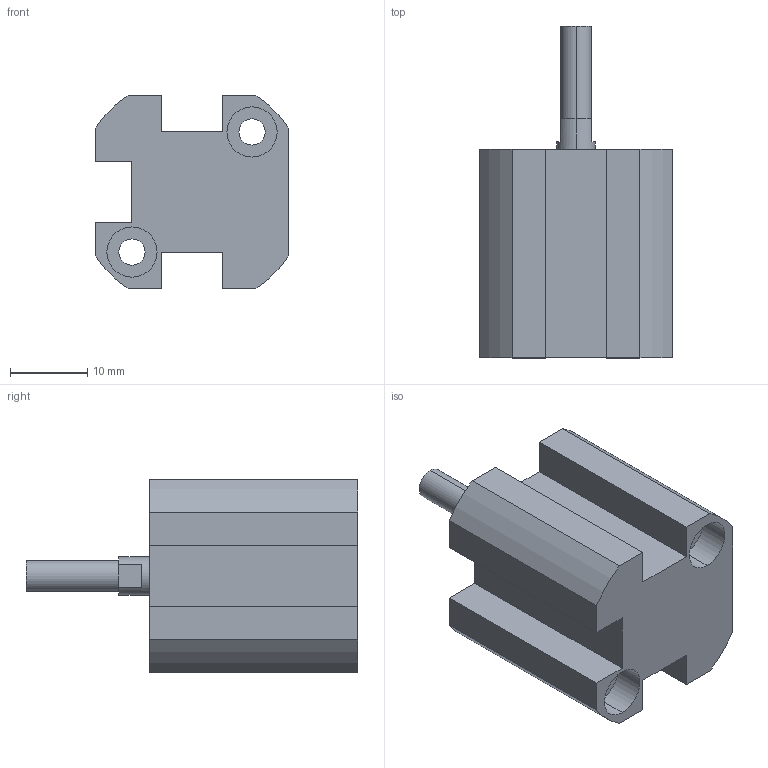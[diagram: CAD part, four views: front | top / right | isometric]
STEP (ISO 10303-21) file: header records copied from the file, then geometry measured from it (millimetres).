
FILE_DESCRIPTION (( 'STEP AP203' ), '1' );
FILE_NAME ('XC#M1-10-10.STEP', '2016-05-23T08:36:12', ( '' ), ( '' ), 'SwSTEP 2.0', 'SolidWorks 2014', '' );
FILE_SCHEMA (( 'CONFIG_CONTROL_DESIGN' ));
Length unit declared in the file: millimetre
Products named in the file (1): XC#M1-10-10
Bounding box: 25 x 43 x 25 mm (x, y, z)
Volume: 11988.2 mm3; surface area: 5382.6 mm2
Topology: 1 solids, 1 shells, 73 faces, 181 edges, 118 vertices
Faces by surface type: cylinder 37, plane 34, cone 2
Entity records: 2267 total; most frequent: DIRECTION 408, CARTESIAN_POINT 371, ORIENTED_EDGE 358, EDGE_CURVE 179, AXIS2_PLACEMENT_3D 155, VERTEX_POINT 118, LINE 98, VECTOR 98
